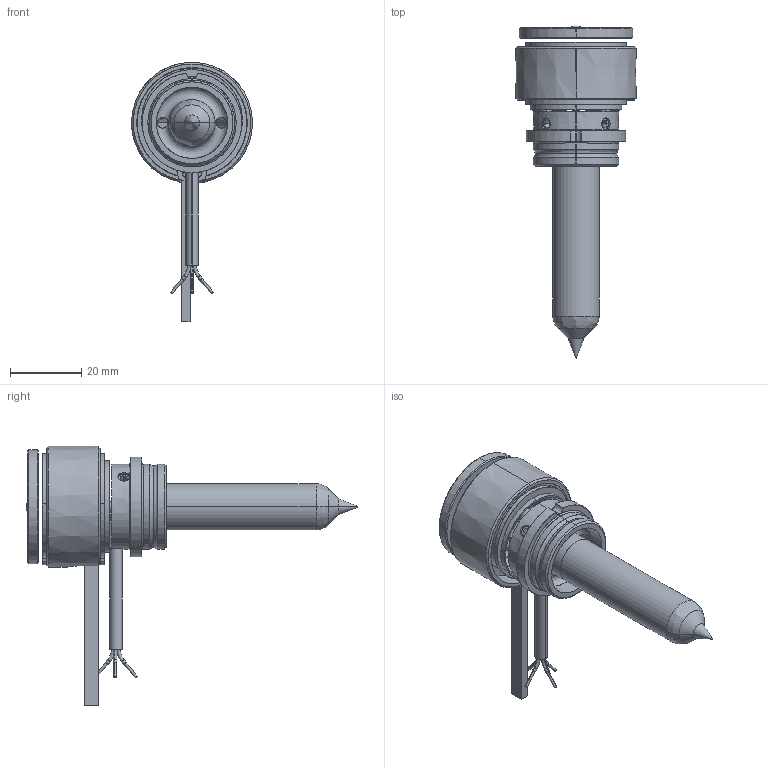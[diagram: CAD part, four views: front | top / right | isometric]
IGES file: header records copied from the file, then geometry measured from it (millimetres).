
Start section: SolidWorks IGES file using analytic representation for surfaces
Global section: file name: C:\Documents and Settings\ws-20\Desktop\TEM\UGGS2530-S-1 [Øf-0.25].IGS; native system: SolidWorks 2012; preprocessor: SolidWorks 2012; author: ws-20; date: 120516.093222; units: millimetre
Bounding box: 34 x 93.3 x 72.9 mm (x, y, z)
Surface area: 16181.4 mm2 (no closed solid volume)
Topology: 0 solids, 0 shells, 205 faces, 2959 edges, 2953 vertices
Faces by surface type: revolution 127, bspline 78
